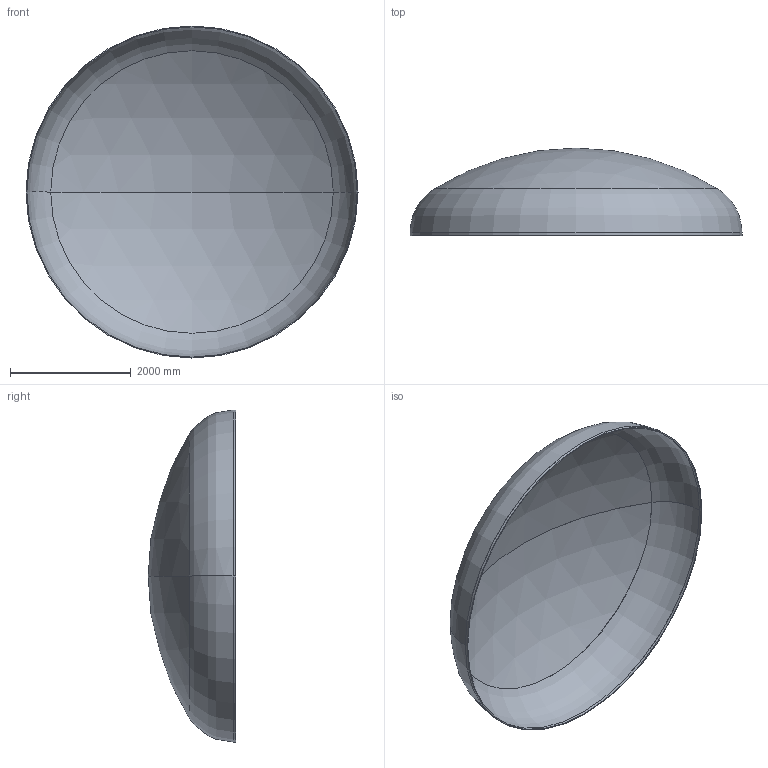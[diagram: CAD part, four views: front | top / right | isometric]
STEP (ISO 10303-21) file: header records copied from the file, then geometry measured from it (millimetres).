
FILE_DESCRIPTION (( 'STEP AP203' ), '1' );
FILE_NAME ('DIN 28013 Korbbogenform_-_Boden DIN 28013 - 5500 x 45 - I - s=14.step', '2016-07-04T10:33:37', ( '' ), ( '' ), 'SwSTEP 2.0', 'SolidWorks 2013', '' );
FILE_SCHEMA (( 'CONFIG_CONTROL_DESIGN' ));
Length unit declared in the file: millimetre
Products named in the file (1): DIN 28013 Korbbogenform_-_Boden DIN 28013 - 5500 x 45 - I - s=14
Bounding box: 5500 x 1448.66 x 5500 mm (x, y, z)
Volume: 469804771.2 mm3; surface area: 67356637.2 mm2
Topology: 1 solids, 1 shells, 13 faces, 24 edges, 14 vertices
Faces by surface type: torus 4, cylinder 4, sphere 4, plane 1
Entity records: 407 total; most frequent: DIRECTION 72, CARTESIAN_POINT 52, ORIENTED_EDGE 48, AXIS2_PLACEMENT_3D 34, EDGE_CURVE 24, CIRCLE 20, EDGE_LOOP 14, VERTEX_POINT 14
